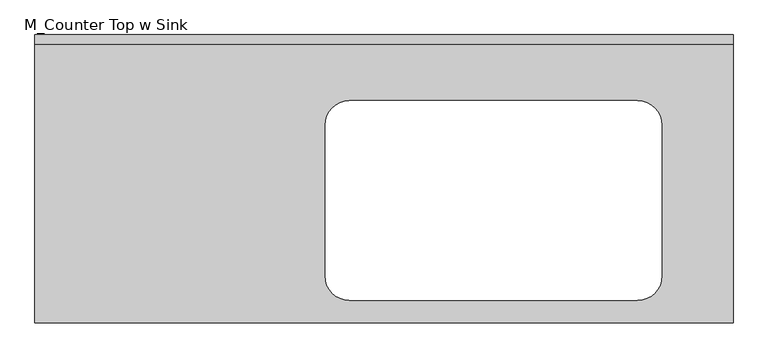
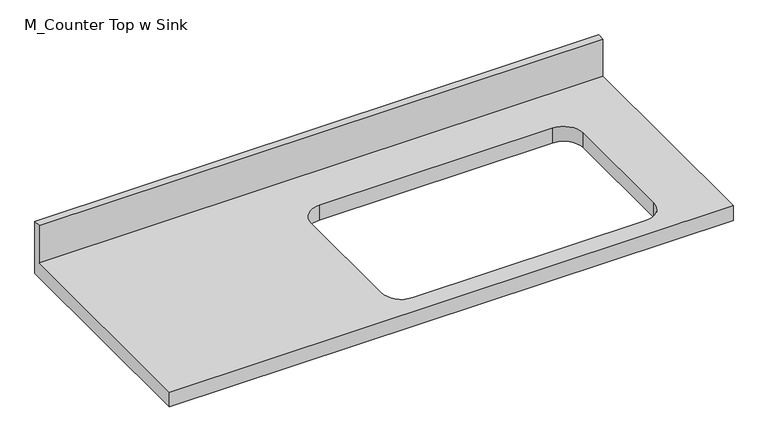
"""IFC4 building model written with IfcOpenShell, lengths in millimetres: furniture geometry, M_Counter Top w Sink : Mesada 1.45m."""

import ifcopenshell
import ifcopenshell.guid

model = None  # the IFC model being written
_history = None  # IfcOwnerHistory: only IFC2X3 demands one
_inside = {}  # id of a spatial element -> (the spatial element, [elements in it])
_under = {}  # id of a project, library or spatial element -> (it, [spatial elements below it])
_declared = {}  # id of a project -> (the project, [libraries it declares])
_typed = {}  # id of a type object -> (the type object, [elements of that type])
_made_of = {}  # id of a material, layer set ... -> (it, [elements and type objects made of it])


def new_model(schema):
    """Start an empty IFC model of exactly this schema.

    Asked for "IFC4X3", IfcOpenShell would pick the latest addendum, in which some entities
    have other attributes; the version numbers below select the first issue.
    IFC2X3 requires an IfcOwnerHistory on every rooted entity: one is made here for all.
    """
    global model, _history
    if schema == "IFC4X3":
        model = ifcopenshell.file(schema_version=(4, 3, 0, 0))
    else:
        model = ifcopenshell.file(schema=schema)
    _inside.clear()
    _under.clear()
    _declared.clear()
    _typed.clear()
    _made_of.clear()
    _history = None
    if model.schema == "IFC2X3":
        org = make("IfcOrganization", Name="unknown")
        user = make(
            "IfcPersonAndOrganization",
            ThePerson=make("IfcPerson", FamilyName="unknown"),
            TheOrganization=org,
        )
        app = make(
            "IfcApplication",
            ApplicationDeveloper=org,
            Version="unknown",
            ApplicationFullName="unknown",
            ApplicationIdentifier="unknown",
        )
        _history = make(
            "IfcOwnerHistory",
            OwningUser=user,
            OwningApplication=app,
            ChangeAction="ADDED",
            CreationDate=0,
        )
    return model


def make(cls, **values):
    """One entity of the class cls with the attributes given. An attribute that is None is left unset."""
    return model.create_entity(
        cls, **{name: value for name, value in values.items() if value is not None}
    )


def rooted(cls, **values):
    """An entity with a GlobalId (a new one), such as an element, a storey or a relation."""
    return make(cls, GlobalId=ifcopenshell.guid.new(), OwnerHistory=_history, **values)


def si_unit(unit_type, name, prefix=None):
    """IfcSIUnit, for example si_unit("LENGTHUNIT", "METRE", prefix="MILLI")."""
    return make("IfcSIUnit", UnitType=unit_type, Prefix=prefix, Name=name)


def assignment(units):
    """IfcUnitAssignment: the units of a project."""
    return None if units is None else make("IfcUnitAssignment", Units=units)


def point(xyz):
    """IfcCartesianPoint."""
    return None if xyz is None else make("IfcCartesianPoint", Coordinates=xyz)


def direction(xyz):
    """IfcDirection."""
    return None if xyz is None else make("IfcDirection", DirectionRatios=xyz)


def frame(location, z_axis=None, x_axis=None):
    """IfcAxis2Placement3D, a coordinate frame: its origin and axes. An axis left out is left unset."""
    return make(
        "IfcAxis2Placement3D",
        Location=point(location),
        Axis=direction(z_axis),
        RefDirection=direction(x_axis),
    )


def origin():
    """The frame at (0, 0, 0) with its axes left unset."""
    return frame((0.0, 0.0, 0.0))


def place(relative_to, where):
    """IfcLocalPlacement: puts the frame where relative to a parent placement (None: the world)."""
    return make(
        "IfcLocalPlacement", PlacementRelTo=relative_to, RelativePlacement=where
    )


def context(
    kind, dimensions, precision=None, world=None, true_north=None, identifier=None
):
    """IfcGeometricRepresentationContext, for example the 3D "Model" context."""
    return make(
        "IfcGeometricRepresentationContext",
        ContextIdentifier=identifier,
        ContextType=kind,
        CoordinateSpaceDimension=dimensions,
        Precision=precision,
        WorldCoordinateSystem=world,
        TrueNorth=true_north,
    )


def project(units=None, contexts=None):
    """IfcProject with its units and contexts."""
    return rooted(
        "IfcProject",
        Name="project",
        RepresentationContexts=contexts,
        UnitsInContext=assignment(units),
    )


def spatial(cls, under=None, at=None, **own):
    """A site, building, storey or space (cls), placed at a placement, below another one or the project."""
    s = rooted(cls, ObjectPlacement=at, **own)
    if under is not None:
        _under.setdefault(under.id(), (under, []))[1].append(s)
    return s


def polyline(points):
    """IfcPolyline through the points."""
    return make("IfcPolyline", Points=[point(p) for p in points])


def circle_curve(where, radius):
    """IfcCircle in the frame where."""
    return make("IfcCircle", Position=where, Radius=radius)


def shape(context_of_items, identifier, shape_type, items):
    """IfcShapeRepresentation: the items that make up one representation, for example the "Body"."""
    return make(
        "IfcShapeRepresentation",
        ContextOfItems=context_of_items,
        RepresentationIdentifier=identifier,
        RepresentationType=shape_type,
        Items=items,
    )


def source(mapping_origin, context_of_items, identifier, shape_type, items):
    """IfcRepresentationMap: a shape defined once, which mapped items show again and again."""
    return make(
        "IfcRepresentationMap",
        MappingOrigin=mapping_origin,
        MappedRepresentation=shape(context_of_items, identifier, shape_type, items),
    )


def transform(
    local_origin,
    x_axis=None,
    y_axis=None,
    z_axis=None,
    scale=None,
    scale2=None,
    scale3=None,
    uniform=True,
):
    """IfcCartesianTransformationOperator3D, or its non-uniform kind. x_axis, y_axis, z_axis: its Axis1, 2, 3."""
    if uniform:
        return make(
            "IfcCartesianTransformationOperator3D",
            Axis1=direction(x_axis),
            Axis2=direction(y_axis),
            LocalOrigin=point(local_origin),
            Scale=scale,
            Axis3=direction(z_axis),
        )
    return make(
        "IfcCartesianTransformationOperator3DnonUniform",
        Axis1=direction(x_axis),
        Axis2=direction(y_axis),
        LocalOrigin=point(local_origin),
        Scale=scale,
        Axis3=direction(z_axis),
        Scale2=scale2,
        Scale3=scale3,
    )


def mapped(mapping_source, mapping_target):
    """IfcMappedItem: shows the shape of a source again, moved by a transform."""
    return make(
        "IfcMappedItem", MappingSource=mapping_source, MappingTarget=mapping_target
    )


def made_of(thing, what):
    """Note that an element or type object is made of a material, layer set ...; save() writes the relation."""
    if what is not None:
        _made_of.setdefault(what.id(), (what, []))[1].append(thing)
    return thing


def element(
    cls,
    number,
    at=None,
    inside=None,
    cuts=None,
    type_object=None,
    material=None,
    context=None,
    identifier="Body",
    shape_type=None,
    held_by="IfcProductDefinitionShape",
    body=None,
    shapes=None,
    **own,
):
    """One element of the class cls, such as IfcWall. Its Tag is "e" and its number.

    at: its placement. inside: the storey or other place that contains it. cuts: it is an
    opening in that element (IfcRelVoidsElement). A single representation is given by context,
    identifier, shape_type and body (its items); several are given by shapes. held_by: the class
    of the entity that holds the representations. save() writes the other relations.
    """
    e = rooted(cls, Tag="e%d" % number, ObjectPlacement=at, **own)
    if body is not None:
        shapes = [shape(context, identifier, shape_type, body)]
    if shapes is not None:
        e.Representation = make(held_by, Representations=shapes)
    if inside is not None:
        _inside.setdefault(inside.id(), (inside, []))[1].append(e)
    if cuts is not None:
        rooted(
            "IfcRelVoidsElement", RelatingBuildingElement=cuts, RelatedOpeningElement=e
        )
    if type_object is not None:
        _typed.setdefault(type_object.id(), (type_object, []))[1].append(e)
    return made_of(e, material)


def aggregate(whole, parts):
    """IfcRelAggregates: a whole, such as a stair, and the parts it consists of."""
    return rooted("IfcRelAggregates", RelatingObject=whole, RelatedObjects=parts)


def save(model, path):
    """Write the relations noted so far, then the file.

    IfcRelAggregates (storeys below a building ...), IfcRelContainedInSpatialStructure (elements
    in a storey), IfcRelDefinesByType, IfcRelAssociatesMaterial and IfcRelDeclares: one each for
    every whole, place, type object, material and project.
    """
    for whole, parts in _under.values():
        aggregate(whole, parts)
    for where, things in _inside.values():
        rooted(
            "IfcRelContainedInSpatialStructure",
            RelatedElements=things,
            RelatingStructure=where,
        )
    for kind, things in _typed.values():
        rooted("IfcRelDefinesByType", RelatedObjects=things, RelatingType=kind)
    for what, things in _made_of.values():
        rooted("IfcRelAssociatesMaterial", RelatedObjects=things, RelatingMaterial=what)
    for by, libraries in _declared.values():
        rooted("IfcRelDeclares", RelatingContext=by, RelatedDefinitions=libraries)
    model.write(path)


def plane_surface(at):
    """IfcPlane: the flat surface through the origin of the frame at, square to its z axis."""
    return make("IfcPlane", Position=at)


def revolved_surface(curve, axis_point, axis_direction):
    """IfcSurfaceOfRevolution: the curve turned about the line through axis_point along axis_direction."""
    return make(
        "IfcSurfaceOfRevolution",
        SweptCurve=make("IfcArbitraryOpenProfileDef", ProfileType="CURVE", Curve=curve),
        AxisPosition=make("IfcAxis1Placement", Location=point(axis_point), Axis=direction(axis_direction)),
    )


def advanced_brep(points, edges, surfaces, faces):
    """IfcAdvancedBrep: a solid bounded by faces that lie on surfaces and meet in shared edges.

    An edge is (start, end): straight between two places in points (the first is 0);
    or (start, end, curve); or (start, end, curve, False) where it runs against its curve.
    A face is (place in surfaces, loops), or (place, loops, False) where it looks against
    its surface's normal. A loop lists edges by number (the first is 1), with a minus sign
    where the edge is run from its end to its start. The first loop is the outer one.
    """
    corners = [point(p) for p in points]
    vertices = [make("IfcVertexPoint", VertexGeometry=c) for c in corners]
    made = []
    for start, end, *more in edges:
        made.append(
            make(
                "IfcEdgeCurve",
                EdgeStart=vertices[start],
                EdgeEnd=vertices[end],
                EdgeGeometry=more[0] if more else make("IfcPolyline", Points=[corners[start], corners[end]]),
                SameSense=more[1] if len(more) > 1 else True,
            )
        )
    hull = []
    for where, loops, *sense in faces:
        bounds = []
        for j, loop in enumerate(loops):
            ring = [make("IfcOrientedEdge", EdgeElement=made[abs(k) - 1], Orientation=k > 0) for k in loop]
            bounds.append(
                make(
                    "IfcFaceOuterBound" if j == 0 else "IfcFaceBound",
                    Bound=make("IfcEdgeLoop", EdgeList=ring),
                    Orientation=True,
                )
            )
        hull.append(make("IfcAdvancedFace", Bounds=bounds, FaceSurface=surfaces[where], SameSense=sense[0] if sense else True))
    return make("IfcAdvancedBrep", Outer=make("IfcClosedShell", CfsFaces=hull))


def m_counter_top_w_sink_d17fd10d(model_context):
    return source(origin(), model_context, "Body", "AdvancedBrep", [
        advanced_brep(
        [(-1200.4622951, -600.0, 900.0), (251.1623896, -600.0, 900.0), (251.1623896, -19.05, 900.0), (-1200.4622951, -19.05, 900.0), (-546.4252591, -137.3, 900.0), (52.3747409, -137.3, 900.0), (103.1747409, -188.1, 900.0), (103.1747409, -501.9, 900.0), (52.3747409, -552.7, 900.0), (-546.4252591, -552.7, 900.0), (-597.2252591, -501.9, 900.0), (-597.2252591, -188.1, 900.0), (251.1623896, 0.0, 860.0), (251.1623896, -600.0, 860.0), (-1200.4622951, -600.0, 860.0), (-1200.4622951, 0.0, 860.0), (52.3747409, -137.3, 860.0), (-546.4252591, -137.3, 860.0), (-597.2252591, -188.1, 860.0), (-597.2252591, -501.9, 860.0), (-546.4252591, -552.7, 860.0), (52.3747409, -552.7, 860.0), (103.1747409, -501.9, 860.0), (103.1747409, -188.1, 860.0), (-1200.4622951, 0.0, 1001.6), (251.1623896, 0.0, 1001.6), (-1200.4622951, -19.05, 1001.6), (251.1623896, -19.05, 1001.6)],
        [
            (0, 1),
            (1, 2),
            (2, 3),
            (3, 0),
            (4, 5),
            (5, 6, circle_curve(frame((52.3747409, -188.1, 900.0), z_axis=(0.0, 0.0, -1.0), x_axis=(1.0, 0.0, 0.0)), 50.8)),
            (6, 7),
            (7, 8, circle_curve(frame((52.3747409, -501.9, 900.0), z_axis=(0.0, 0.0, -1.0), x_axis=(1.0, 0.0, 0.0)), 50.8)),
            (8, 9),
            (9, 10, circle_curve(frame((-546.4252591, -501.9, 900.0), z_axis=(0.0, 0.0, -1.0), x_axis=(1.0, 0.0, 0.0)), 50.8)),
            (10, 11),
            (11, 4, circle_curve(frame((-546.4252591, -188.1, 900.0), z_axis=(0.0, 0.0, -1.0), x_axis=(1.0, 0.0, 0.0)), 50.8)),
            (12, 13),
            (13, 14),
            (14, 15),
            (15, 12),
            (16, 17),
            (17, 18, circle_curve(frame((-546.4252591, -188.1, 860.0), z_axis=(0.0, 0.0, 1.0), x_axis=(1.0, 0.0, 0.0)), 50.8)),
            (18, 19),
            (19, 20, circle_curve(frame((-546.4252591, -501.9, 860.0), z_axis=(0.0, 0.0, 1.0), x_axis=(1.0, 0.0, 0.0)), 50.8)),
            (20, 21),
            (21, 22, circle_curve(frame((52.3747409, -501.9, 860.0), z_axis=(0.0, 0.0, 1.0), x_axis=(1.0, 0.0, 0.0)), 50.8)),
            (22, 23),
            (23, 16, circle_curve(frame((52.3747409, -188.1, 860.0), z_axis=(0.0, 0.0, 1.0), x_axis=(1.0, 0.0, 0.0)), 50.8)),
            (15, 24),
            (24, 25),
            (25, 12),
            (14, 0),
            (3, 26),
            (26, 24),
            (13, 1),
            (25, 27),
            (27, 2),
            (26, 27),
            (4, 17),
            (16, 5),
            (11, 18),
            (10, 19),
            (9, 20),
            (8, 21),
            (7, 22),
            (6, 23),
        ],
        [
            plane_surface(frame((-1200.4622951, 0.0, 900.0), z_axis=(0.0, 0.0, 1.0), x_axis=(-1.0, 0.0, 0.0))),
            plane_surface(frame((-1200.4622951, 0.0, 860.0), z_axis=(0.0, 0.0, -1.0), x_axis=(1.0, 0.0, 0.0))),
            plane_surface(frame((251.1623896, 0.0, 900.0), z_axis=(0.0, 1.0, 0.0), x_axis=(0.0, 0.0, -1.0))),
            plane_surface(frame((-1200.4622951, 0.0, 900.0), z_axis=(-1.0, 0.0, 0.0), x_axis=(0.0, 0.0, -1.0))),
            plane_surface(frame((-1200.4622951, -600.0, 900.0), z_axis=(0.0, -1.0, 0.0), x_axis=(0.0, 0.0, -1.0))),
            plane_surface(frame((251.1623896, -600.0, 900.0), z_axis=(1.0, 0.0, 0.0), x_axis=(0.0, 0.0, -1.0))),
            plane_surface(frame((-1200.4622951, 0.0, 1001.6), z_axis=(0.0, 0.0, 1.0), x_axis=(0.0, -1.0, 0.0))),
            plane_surface(frame((-1200.4622951, -19.05, 1001.6), z_axis=(0.0, -1.0, 0.0), x_axis=(0.0, 0.0, -1.0))),
            plane_surface(frame((52.3747409, -137.3, 900.0), z_axis=(0.0, -1.0, 0.0), x_axis=(0.0, 0.0, -1.0))),
            revolved_surface(polyline([(-495.62525909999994, -188.1, 900.0), (-495.62525909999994, -188.1, 860.0)]), (-546.4252591, -188.1, 860.0), (0.0, 0.0, 1.0)),
            plane_surface(frame((-597.2252591, -188.1, 900.0), z_axis=(1.0, 0.0, 0.0), x_axis=(0.0, 0.0, -1.0))),
            revolved_surface(polyline([(-495.62525909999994, -501.9, 900.0), (-495.62525909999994, -501.9, 860.0)]), (-546.4252591, -501.9, 860.0), (0.0, 0.0, 1.0)),
            plane_surface(frame((-546.4252591, -552.7, 900.0), z_axis=(0.0, 1.0, 0.0), x_axis=(0.0, 0.0, -1.0))),
            revolved_surface(polyline([(103.17474089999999, -501.9, 900.0), (103.17474089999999, -501.9, 860.0)]), (52.3747409, -501.9, 860.0), (0.0, 0.0, 1.0)),
            plane_surface(frame((103.1747409, -501.9, 900.0), z_axis=(-1.0, 0.0, 0.0), x_axis=(0.0, 0.0, -1.0))),
            revolved_surface(polyline([(103.17474089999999, -188.1, 900.0), (103.17474089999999, -188.1, 860.0)]), (52.3747409, -188.1, 860.0), (0.0, 0.0, 1.0)),
        ],
        [
            (0, [[1, 2, 3, 4], [5, 6, 7, 8, 9, 10, 11, 12]]),
            (1, [[13, 14, 15, 16], [17, 18, 19, 20, 21, 22, 23, 24]]),
            (2, [[-16, 25, 26, 27]]),
            (3, [[-15, 28, -4, 29, 30, -25]]),
            (4, [[-1, -28, -14, 31]]),
            (5, [[-13, -27, 32, 33, -2, -31]]),
            (6, [[-30, 34, -32, -26]]),
            (7, [[-34, -29, -3, -33]]),
            (8, [[35, -17, 36, -5]]),
            (9, [[-35, -12, 37, -18]]),
            (10, [[-37, -11, 38, -19]]),
            (11, [[-38, -10, 39, -20]]),
            (12, [[-39, -9, 40, -21]]),
            (13, [[-40, -8, 41, -22]]),
            (14, [[-41, -7, 42, -23]]),
            (15, [[-36, -24, -42, -6]]),
        ],
    ),
    ])


if __name__ == "__main__":
    model = new_model("IFC4")
    model_context = context("Model", 3, world=origin())
    ifc_project = project(units=[si_unit("LENGTHUNIT", "METRE", prefix="MILLI")], contexts=[model_context])
    site = spatial("IfcSite", under=ifc_project)
    building = spatial("IfcBuilding", under=site)
    placement = place(None, origin())
    m_counter_top_w_sink_shape = m_counter_top_w_sink_d17fd10d(model_context)
    element("IfcFurniture", 1, ObjectType="M_Counter Top w Sink : Mesada 1.45m", at=placement, inside=building, context=model_context, shape_type="MappedRepresentation", body=[
        mapped(m_counter_top_w_sink_shape, transform((0.0, 0.0, 0.0), x_axis=(1.0, 0.0, 0.0), y_axis=(0.0, 1.0, 0.0), z_axis=(0.0, 0.0, 1.0))),
    ])
    save(model, "model.ifc")
